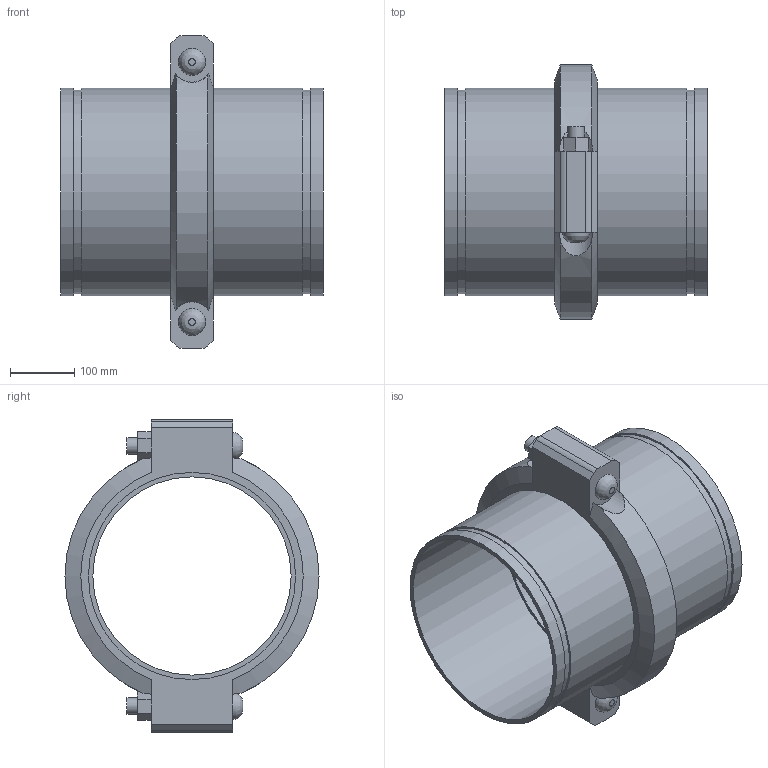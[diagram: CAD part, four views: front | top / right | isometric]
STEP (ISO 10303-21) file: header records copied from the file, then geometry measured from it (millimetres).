
FILE_DESCRIPTION(/* description */ ('VIC SS EXPANSION JOINT 1 COUPLING NEUTRAL STYLE 155P (OGS) (POTABLE WATER) ','CAx-IF Rec.Pracs.---Representation and Presentation of Product Manufacturing Information (PMI)---4.0---2014-10-13'),/* implementation_level */ '2;1');
FILE_NAME(/* name */ 'C:\Users\kkamble\AppData\Roaming\Autodesk\ApplicationPlugins\Victaulic.Temp\A585\Victaulic_SS_Expansion Joint_Neutral_1 Coupling_Style 155P (OGS)-Potable Water_1 Coup_Neut_12 (300).stp',/* time_stamp */ '2021-07-16T16:26:13+06:00',/* author */ ('kkamble'),/* organization */ ('Victaulic'),/* preprocessor_version */ 'ST-DEVELOPER v17.2',/* originating_system */ 'Autodesk Inventor 2019',/* authorisation */ '');
FILE_SCHEMA (('AP242_MANAGED_MODEL_BASED_3D_ENGINEERING_MIM_LF { 1 0 10303 442 1 1 4 }'));
Length unit declared in the file: inch
Products named in the file (3): 155P-12.0; Nipple-12.0; 077-12.0
Assembly tree (3 placements, depth 2):
  155P-12.0
    Nipple-12.0  x2
    077-12.0
Bounding box: 409.7 x 397 x 488.95 mm (x, y, z)
Volume: 6136245.1 mm3; surface area: 1178648.9 mm2
Topology: 3 solids, 5 shells, 85 faces, 205 edges, 146 vertices
Faces by surface type: plane 48, cylinder 31, cone 4, bspline 2
Full cylindrical faces by diameter (mm): 25.4 x4, 27.432 x2, 309.677 x2, 314.96 x1, 318.287 x4, 323.85 x8
Entity records: 2548 total; most frequent: CARTESIAN_POINT 584, DIRECTION 381, ORIENTED_EDGE 350, EDGE_CURVE 175, AXIS2_PLACEMENT_3D 149, VERTEX_POINT 122, EDGE_LOOP 93, LINE 83
